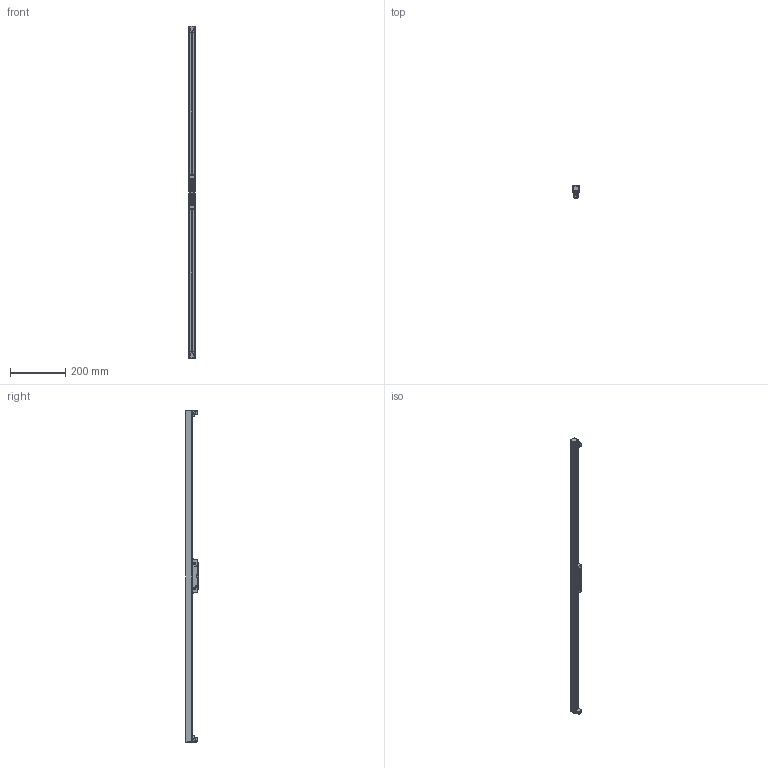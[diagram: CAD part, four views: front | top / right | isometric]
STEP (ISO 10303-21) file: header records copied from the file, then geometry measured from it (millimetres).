
FILE_DESCRIPTION (( 'STEP AP203' ), '1' );
FILE_NAME ('410101.STEP', '2021-10-29T01:56:25', ( '微软用户' ), ( '微软中国' ), 'SwSTEP 2.0', 'SolidWorks 2014', '' );
FILE_SCHEMA (( 'CONFIG_CONTROL_DESIGN' ));
Length unit declared in the file: millimetre
Products named in the file (21): 08-22-W1_37_ASM; 埴芛坋趼蹟佪M3X6; 泛光灯体-1200（带台阶）; 03_X_T; MANIFOLD_SOLID_BREP_5134_2; 滓嫖醱欶-1200; 沉头十字自攻螺丝M3X6; MANIFOLD_SOLID_BREP_5136_8; 臏價啣-410055; 20磁吸（无推钮）短款电源盒：GN-CX01-7-2; MANIFOLD_SOLID_BREP_41700; PET毀嫖祧-600; 410101; DK-1_0406A_14_59_ASM; 黑芛掖蝶ㄗ湍怢論ㄘ; 08-20-PC1_6; 滓嫖黑芛ㄗ湍怢論ㄘ; MANIFOLD_SOLID_BREP_45179; ｳﾁﾍｷﾊｮﾗﾖﾗﾔｹ･ﾂﾝﾋｿ M2.5X8; MANIFOLD_SOLID_BREP_53625; 安全扣：GN-CX01-10
Assembly tree (32 placements, depth 4):
  410101
    泛光灯体-1200（带台阶）
    滓嫖醱欶-1200
    臏價啣-410055  x2
    PET毀嫖祧-600  x4
    黑芛掖蝶ㄗ湍怢論ㄘ  x2
    滓嫖黑芛ㄗ湍怢論ㄘ  x2
    ｳﾁﾍｷﾊｮﾗﾖﾗﾔｹ･ﾂﾝﾋｿ M2.5X8  x4
    安全扣：GN-CX01-10  x2
    埴芛坋趼蹟佪M3X6  x2
    20磁吸（无推钮）短款电源盒：GN-CX01-7-2
      MANIFOLD_SOLID_BREP_5134_2
      MANIFOLD_SOLID_BREP_5136_8
      DK-1_0406A_14_59_ASM
        MANIFOLD_SOLID_BREP_41700
      08-20-PC1_6
      08-22-W1_37_ASM
        MANIFOLD_SOLID_BREP_45179
        MANIFOLD_SOLID_BREP_53625
      03_X_T
      沉头十字自攻螺丝M3X6  x2
Bounding box: 22 x 44.2 x 1204.4 mm (x, y, z)
Volume: 266316.1 mm3; surface area: 394057.9 mm2
Topology: 28 solids, 30 shells, 3635 faces, 9248 edges, 6086 vertices
Faces by surface type: plane 3060, cylinder 429, cone 64, bspline 60, torus 14, sphere 8
Entity records: 75448 total; most frequent: CARTESIAN_POINT 16516, ORIENTED_EDGE 12020, DIRECTION 10749, EDGE_CURVE 6013, LINE 5095, VECTOR 5095, VERTEX_POINT 3965, AXIS2_PLACEMENT_3D 2827
